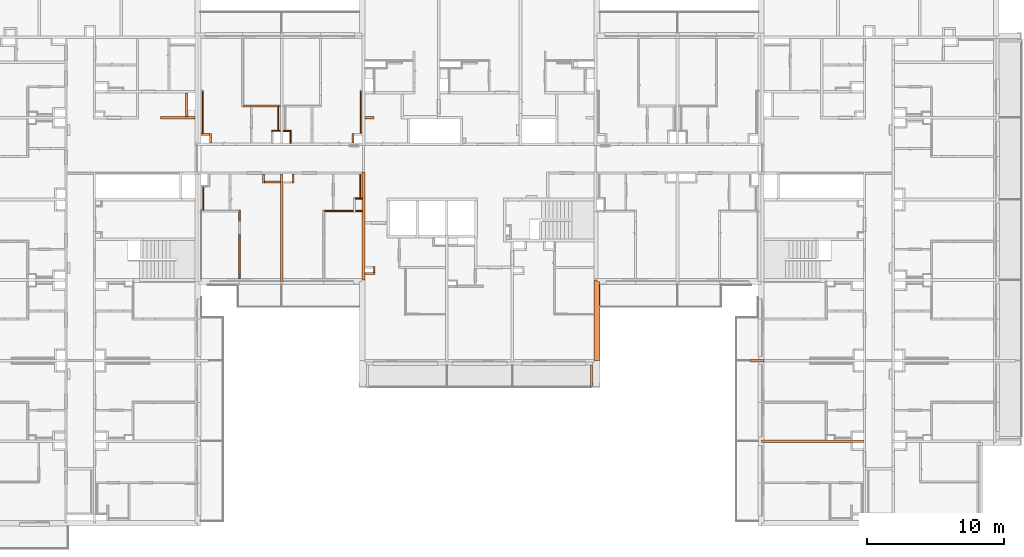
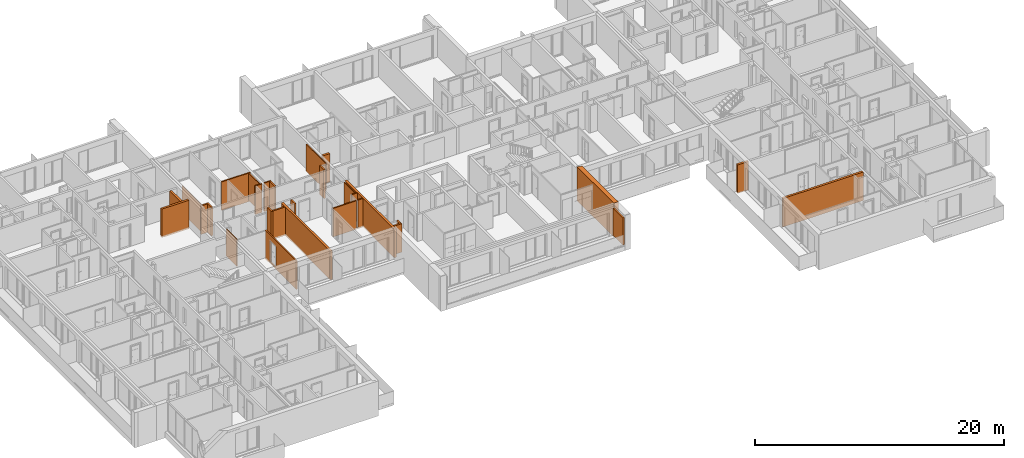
# One storey, part 56 of 67: 29 proxies, 1 opening.
"""IFC2X3 building model written with IfcOpenShell, lengths in millimetres."""

from ifc_helpers import new_model, entity, si_unit, converted_unit, derived_unit, money_unit, direction, frame, origin_with_axes, origin_2d_with_axis, place, context, subcontext, project, spatial, rectangle, extrude, faceted_brep, material, material_list, type_object, element, save


model = new_model("IFC2X3")

# Units and contexts
model_context = context("Model", 3, precision=0.01, world=origin_with_axes(), true_north=direction((0.34421633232, 0.938890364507)))
body_context = subcontext(model_context, "Body", "Model", "MODEL_VIEW")
ifc_project = project(units=[si_unit("LENGTHUNIT", "METRE", prefix="MILLI"), si_unit("AREAUNIT", "SQUARE_METRE"), si_unit("VOLUMEUNIT", "CUBIC_METRE"), converted_unit("PLANEANGLEUNIT", "DEGREE", entity("IfcPlaneAngleMeasure", 0.0174532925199), si_unit("PLANEANGLEUNIT", "RADIAN"), dimensions=[0, 0, 0, 0, 0, 0, 0]), si_unit("SOLIDANGLEUNIT", "STERADIAN"), money_unit("USD"), converted_unit("TIMEUNIT", "Year", entity("IfcTimeMeasure", 31556926.0), si_unit("TIMEUNIT", "SECOND"), dimensions=[0, 0, 1, 0, 0, 0, 0]), si_unit("MASSUNIT", "GRAM", prefix="KILO"), si_unit("THERMODYNAMICTEMPERATUREUNIT", "DEGREE_CELSIUS"), si_unit("LUMINOUSINTENSITYUNIT", "LUMEN"), si_unit("ENERGYUNIT", "JOULE", prefix="MEGA"), derived_unit("THERMALCONDUCTANCEUNIT", [(si_unit("POWERUNIT", "WATT"), 1), (si_unit("LENGTHUNIT", "METRE"), -1), (si_unit("THERMODYNAMICTEMPERATUREUNIT", "KELVIN"), -1)]), derived_unit("SPECIFICHEATCAPACITYUNIT", [(si_unit("ENERGYUNIT", "JOULE"), 1), (si_unit("MASSUNIT", "GRAM", prefix="KILO"), -1), (si_unit("THERMODYNAMICTEMPERATUREUNIT", "KELVIN"), -1)]), derived_unit("MASSDENSITYUNIT", [(si_unit("MASSUNIT", "GRAM", prefix="KILO"), 1), (si_unit("VOLUMEUNIT", "CUBIC_METRE"), -1)])], contexts=[model_context])

# Site, building, storey
site_placement = place(None, origin_with_axes())
site = spatial("IfcSite", under=ifc_project, at=site_placement, Name="USTRONIE MORSKIE", CompositionType="ELEMENT")
building_placement = place(site_placement, origin_with_axes())
building = spatial("IfcBuilding", under=site, at=building_placement, Name="Budynek", CompositionType="ELEMENT")
storey_placement = place(building_placement, frame((0.0, 0.0, 4000.0), z_axis=(0.0, 0.0, 1.0), x_axis=(1.0, 0.0, 0.0)))
storey = spatial("IfcBuildingStorey", under=building, at=storey_placement, Name="PIĘTRO 1", CompositionType="ELEMENT", Elevation=4000.0)

# Proxies
ifc_material_1 = material(Name="Bloczki silikatowe")
building_element_proxy_type_1 = type_object("IfcBuildingElementProxyType", Name="Bloczki silikatowe 120", PredefinedType="NOTDEFINED")
proxy_1_placement = place(storey_placement, frame((379317.920919, 731951.199132, -160.0), z_axis=(0.0, 0.0, 1.0), x_axis=(-1.0, 0.0, 0.0)))
element("IfcBuildingElementProxy", 1, at=proxy_1_placement, inside=storey, type_object=building_element_proxy_type_1, material=ifc_material_1, Name="SW-04", context=body_context, shape_type="Brep", body=[
    faceted_brep([(2860.01935038, 59.9999999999, 0.0), (2860.01935038, -59.9999999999, 0.0), (720.004475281, -59.9999999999, 0.0), (720.008213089, 59.9999999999, 0.0), (2860.01935038, 59.9999999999, 2800.0), (2860.01935038, -59.9999999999, 2800.0), (720.004475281, -59.9999999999, 2800.0), (720.008213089, 59.9999999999, 2800.0)], [[[0, 1, 2, 3]], [[1, 0, 4, 5]], [[1, 5, 6, 2]], [[7, 3, 2, 6]], [[4, 0, 3, 7]], [[5, 4, 7, 6]]]),
    faceted_brep([(600.008213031, 59.9999999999, 0.0), (600.004475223, -59.9999999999, 0.0), (100.0, -59.9999999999, 0.0), (100.0, 59.9999999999, 0.0), (600.008213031, 59.9999999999, 2800.0), (600.004475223, -59.9999999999, 2800.0), (100.0, -59.9999999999, 2800.0), (100.0, 59.9999999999, 2800.0)], [[[0, 1, 2, 3]], [[1, 0, 4, 5]], [[1, 5, 6, 2]], [[7, 3, 2, 6]], [[4, 0, 3, 7]], [[5, 4, 7, 6]]]),
])
proxy_2_placement = place(storey_placement, frame((373317.920919, 737751.199937, -160.0), z_axis=(0.0, 0.0, 1.0), x_axis=(-1.0, 0.0, 0.0)))
element("IfcBuildingElementProxy", 2, at=proxy_2_placement, inside=storey, type_object=building_element_proxy_type_1, material=ifc_material_1, Name="SW-04", context=body_context, shape_type="Brep", body=[
    faceted_brep([(720.0, 0.0, 2800.0), (100.0, 0.0, 2800.0), (100.0, -120.0, 2800.0), (720.0, -120.0, 2800.0), (720.0, 0.0, 0.0), (100.0, 0.0, 0.0), (100.0, -120.0, 0.0), (720.0, -120.0, 0.0)], [[[0, 1, 2, 3]], [[4, 5, 1, 0]], [[5, 6, 2, 1]], [[3, 2, 6, 7]], [[7, 4, 0, 3]], [[7, 6, 5, 4]]]),
])
proxy_3_placement = place(storey_placement, frame((373317.920919, 737751.199937, -160.0), z_axis=(0.0, 0.0, 1.0), x_axis=(1.0, 0.0, 0.0)))
element("IfcBuildingElementProxy", 3, at=proxy_3_placement, inside=storey, type_object=building_element_proxy_type_1, material=ifc_material_1, Name="SW-04", context=body_context, shape_type="Brep", body=[
    faceted_brep([(720.0, 120.0, 0.0), (720.0, 0.0, 0.0), (100.0, 0.0, 0.0), (100.0, 120.0, 0.0), (720.0, 120.0, 2800.0), (720.0, 0.0, 2800.0), (100.0, 0.0, 2800.0), (100.0, 120.0, 2800.0)], [[[0, 1, 2, 3]], [[1, 0, 4, 5]], [[1, 5, 6, 2]], [[7, 3, 2, 6]], [[4, 0, 3, 7]], [[5, 4, 7, 6]]]),
])

# Proxy, opening
proxy_4_placement = place(storey_placement, frame((370237.940269, 731951.199132, -160.0), z_axis=(0.0, 0.0, 1.0), x_axis=(0.0, -1.0, 0.0)))
proxy_4 = element("IfcBuildingElementProxy", 4, at=proxy_4_placement, inside=storey, type_object=building_element_proxy_type_1, material=ifc_material_1, Name="SW-04", context=body_context, shape_type="Brep", body=[
    faceted_brep([(4950.00009633, 60.0, 0.0), (4950.00009633, -60.0, 0.0), (-59.9999999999, -60.0, 0.0), (-59.9999999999, 60.0, 0.0), (4950.00009633, 60.0, 2800.0), (4950.00009633, -60.0, 2800.0), (-59.9999999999, -60.0, 2800.0), (-59.9999999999, 60.0, 2800.0)], [[[0, 1, 2, 3]], [[1, 0, 4, 5]], [[1, 5, 6, 2]], [[7, 3, 2, 6]], [[4, 0, 3, 7]], [[5, 4, 7, 6]]]),
])
opening_placement = place(proxy_4_placement, frame((1220.00038806, 0.0, 160.0), z_axis=(0.0, 0.0, 1.0), x_axis=(1.0, 0.0, 0.0)))
element("IfcOpeningElement", 5, at=opening_placement, cuts=proxy_4, Name="Dw.3", context=body_context, shape_type="SweptSolid", body=[
    extrude(rectangle(XDim=920.0, YDim=2070.0, at=origin_2d_with_axis()), frame((0.0, -120.0, 1035.0), z_axis=(0.0, 1.0, 0.0), x_axis=(-1.0, 0.0, 0.0)), (0.0, 0.0, 1.0), 360.0),
    extrude(rectangle(XDim=994.0, YDim=2177.0, at=origin_2d_with_axis()), frame((0.0, -60.0, 1088.5), z_axis=(0.0, 1.0, 0.0), x_axis=(-1.0, 0.0, 0.0)), (0.0, 0.0, -1.0), 120.0),
    extrude(rectangle(XDim=994.0, YDim=2177.0, at=origin_2d_with_axis()), frame((0.0, 60.0, 1088.5), z_axis=(0.0, -1.0, 0.0), x_axis=(-1.0, 0.0, 0.0)), (0.0, 0.0, -1.0), 120.0),
])

# Proxies
proxy_5_placement = place(storey_placement, frame((373917.920919, 737751.199937, -160.0), z_axis=(0.0, 0.0, 1.0), x_axis=(0.0, -1.0, 0.0)))
element("IfcBuildingElementProxy", 6, at=proxy_5_placement, inside=storey, type_object=building_element_proxy_type_1, material=ifc_material_1, Name="SW-04", context=body_context, shape_type="Brep", body=[
    faceted_brep([(820.00090117, 120.0, 0.0), (820.00090117, 0.0, 0.0), (0.0, 0.0, 0.0), (0.0, 120.0, 0.0), (820.00090117, 120.0, 2800.0), (820.00090117, 0.0, 2800.0), (0.0, 0.0, 2800.0), (0.0, 120.0, 2800.0)], [[[0, 1, 2, 3]], [[1, 0, 4, 5]], [[1, 5, 6, 2]], [[7, 3, 2, 6]], [[4, 0, 3, 7]], [[5, 4, 7, 6]]]),
])
proxy_6_placement = place(storey_placement, frame((379317.920919, 732811.215201, -160.0), z_axis=(0.0, 0.0, 1.0), x_axis=(-0.999999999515, -3.11484020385e-05, 0.0)))
element("IfcBuildingElementProxy", 7, at=proxy_6_placement, inside=storey, type_object=building_element_proxy_type_1, material=ifc_material_1, Name="SW-04", context=body_context, shape_type="Brep", body=[
    faceted_brep([(599.979556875, 1.13686837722e-10, 0.0), (599.972081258, -120.0, 0.0), (99.9962622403, -120.0, 0.0), (100.000000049, 1.13686837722e-10, 0.0), (599.979556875, 1.13686837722e-10, 2800.0), (599.972081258, -120.0, 2800.0), (99.9962622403, -120.0, 2800.0), (100.000000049, 1.13686837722e-10, 2800.0)], [[[0, 1, 2, 3]], [[1, 0, 4, 5]], [[1, 5, 6, 2]], [[7, 3, 2, 6]], [[4, 0, 3, 7]], [[5, 4, 7, 6]]]),
])
proxy_7_placement = place(storey_placement, frame((373317.920919, 739651.199937, -160.0), z_axis=(0.0, 0.0, 1.0), x_axis=(-1.0, 0.0, 0.0)))
element("IfcBuildingElementProxy", 8, at=proxy_7_placement, inside=storey, type_object=building_element_proxy_type_1, material=ifc_material_1, Name="SW-04", context=body_context, shape_type="Brep", body=[
    faceted_brep([(2790.00713284, -59.9999999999, 2800.0), (2790.00713284, 59.9999999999, 2800.0), (100.0, 59.9999999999, 2800.0), (100.0, -59.9999999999, 2800.0), (2790.00713284, -59.9999999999, 0.0), (2790.00713284, 59.9999999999, 0.0), (100.0, 59.9999999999, 0.0), (100.0, -59.9999999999, 0.0)], [[[0, 1, 2, 3]], [[1, 0, 4, 5]], [[1, 5, 6, 2]], [[7, 3, 2, 6]], [[4, 0, 3, 7]], [[5, 4, 7, 6]]]),
])
ifc_material_2 = material(Name="Tynk zewnętrzny")
ifc_material_3 = material(Name="Wełna ELEW")
ifc_material_4 = material(Name="Beton konstrukcyjny B25")
ifc_material_list_1 = material_list([ifc_material_2, ifc_material_3, ifc_material_4])
building_element_proxy_type_2 = type_object("IfcBuildingElementProxyType", Name="20+20 410", PredefinedType="NOTDEFINED")
proxy_8_placement = place(storey_placement, frame((396317.920919, 726901.199036, -500.0), z_axis=(0.0, 0.0, 1.0), x_axis=(0.0, -1.0, 0.0)))
element("IfcBuildingElementProxy", 9, at=proxy_8_placement, inside=storey, type_object=building_element_proxy_type_2, material=ifc_material_list_1, Name="SZ-01", context=body_context, shape_type="Brep", body=[
    faceted_brep([(300.0, 300.271623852, 3340.0), (300.0, 300.271623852, 3140.0), (300.0, 310.0, 3140.0), (300.000756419, 310.0, 450.0), (300.000756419, 300.271624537, 450.0), (300.000756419, 300.271624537, 140.0), (300.000756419, 310.0, 140.0), (300.0, 310.0, 0.0), (300.0, 300.0, 0.0), (300.0, 300.0, 3340.0), (1900.00067759, 301.719629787, 3340.0), (1900.00067759, 301.719629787, 3140.0), (1900.00067759, 310.0, 3140.0), (1900.00067759, 310.0, 3340.0), (5900.0, 310.0, 3340.0), (5900.0, 310.0, 0.0), (1900.00067759, 310.0, 140.0), (1900.00067759, 310.0, 450.0), (1900.00067759, 301.719629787, 450.0), (1900.00067759, 301.719629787, 140.0), (5900.0, 300.0, 0.0), (5900.0, 300.0, 3340.0)], [[[0, 1, 2, 3, 4, 5, 6, 7, 8, 9]], [[0, 10, 11, 1]], [[12, 2, 1, 11]], [[12, 13, 14, 15, 7, 6, 16, 17, 3, 2]], [[4, 3, 17, 18]], [[4, 18, 19, 5]], [[16, 6, 5, 19]], [[20, 8, 7, 15]], [[21, 9, 8, 20]], [[10, 0, 9, 21, 14, 13]], [[10, 13, 12, 11]], [[20, 15, 14, 21]], [[18, 17, 16, 19]]]),
    faceted_brep([(100.0, 300.0, 3340.0), (5900.0, 300.0, 3340.0), (5900.0, 300.0, 0.0), (100.0, 300.0, 0.0), (100.0, 100.0, 3340.0), (5900.0, 100.0, 3340.0), (5900.0, 100.0, 0.0), (100.0, 100.0, 0.0)], [[[0, 1, 2, 3]], [[0, 4, 5, 1]], [[2, 1, 5, 6]], [[7, 3, 2, 6]], [[4, 0, 3, 7]], [[4, 7, 6, 5]]]),
    faceted_brep([(0.0, 100.0, 3340.0), (0.0, -100.0, 3340.0), (5900.0, -100.0, 3340.0), (5900.0, 100.0, 3340.0), (0.0, 100.0, 0.0), (0.0, -100.0, 0.0), (5900.0, -100.0, 0.0), (5900.0, 100.0, 0.0)], [[[0, 1, 2, 3]], [[4, 5, 1, 0]], [[1, 5, 6, 2]], [[7, 3, 2, 6]], [[4, 0, 3, 7]], [[5, 4, 7, 6]]]),
])
building_element_proxy_type_3 = type_object("IfcBuildingElementProxyType", Name="Bloczki silikatowe 180", PredefinedType="NOTDEFINED")
proxy_9_placement = place(storey_placement, frame((366377.920919, 738801.199036, -160.0), z_axis=(0.0, 0.0, 1.0), x_axis=(0.0, 1.0, 0.0)))
element("IfcBuildingElementProxy", 10, at=proxy_9_placement, inside=storey, type_object=building_element_proxy_type_3, material=ifc_material_1, Name="SW-02", context=body_context, shape_type="Brep", body=[
    faceted_brep([(1819.98043997, -90.0, 2800.0), (1819.98043997, 90.0, 2800.0), (100.0, 90.0, 2800.0), (100.0, -90.0, 2800.0), (1819.98043997, -90.0, 0.0), (1819.98043997, 90.0, 0.0), (100.0, 90.0, 0.0), (100.0, -90.0, 0.0)], [[[0, 1, 2, 3]], [[1, 0, 4, 5]], [[1, 5, 6, 2]], [[7, 3, 2, 6]], [[4, 0, 3, 7]], [[5, 4, 7, 6]]]),
])
ifc_material_5 = material(Name="-Pustka powietrzna")
ifc_material_6 = material(Name="Płyta GK")
ifc_material_list_2 = material_list([ifc_material_5, ifc_material_6, ifc_material_6])
building_element_proxy_type_4 = type_object("IfcBuildingElementProxyType", Name="330-SD GK 2-warstwy 75", PredefinedType="NOTDEFINED")
proxy_10_placement = place(storey_placement, frame((367547.898487, 737501.202288, -180.0), z_axis=(0.0, 0.0, 1.0), x_axis=(1.16660687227e-07, 1.0, 0.0)))
element("IfcBuildingElementProxy", 11, at=proxy_10_placement, inside=storey, type_object=building_element_proxy_type_4, material=ifc_material_list_2, Name="Ściana-009", context=body_context, shape_type="Brep", body=[
    faceted_brep([(150.0, 0.0, 180.0), (3270.0, 0.0, 180.0), (3270.0, 0.0, 2820.0), (150.0, 0.0, 2820.0), (3269.99999417, 50.0000000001, 180.0), (149.999994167, 50.0000000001, 180.0), (3269.99999417, 50.0000000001, 2820.0), (149.999994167, 50.0000000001, 2820.0)], [[[0, 1, 2, 3]], [[4, 1, 0, 5]], [[1, 4, 6, 2]], [[6, 7, 3, 2]], [[5, 0, 3, 7]], [[4, 5, 7, 6]]]),
    faceted_brep([(150.000001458, -12.4999999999, 165.0), (3282.50000146, -12.4999999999, 165.0), (3282.50000146, -12.4999999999, 2820.0), (150.000001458, -12.4999999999, 2820.0), (3282.50000001, 0.0, 165.0), (150.0, 1.13686837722e-10, 165.0), (3282.50000001, 0.0, 2820.0), (150.0, 0.0, 2820.0)], [[[0, 1, 2, 3]], [[4, 1, 0, 5]], [[1, 4, 6, 2]], [[6, 7, 3, 2]], [[5, 0, 3, 7]], [[4, 5, 7, 6]]]),
    faceted_brep([(150.000002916, -24.9999999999, 165.0), (3295.00000292, -25.0, 165.0), (3295.00000292, -25.0, 2820.0), (150.000002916, -24.9999999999, 2820.0), (3295.00000146, -12.4999999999, 165.0), (150.000001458, -12.4999999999, 165.0), (3295.00000146, -12.4999999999, 2820.0), (150.000001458, -12.4999999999, 2820.0)], [[[0, 1, 2, 3]], [[4, 1, 0, 5]], [[1, 4, 6, 2]], [[6, 7, 3, 2]], [[5, 0, 3, 7]], [[4, 5, 7, 6]]]),
])
ifc_material_list_3 = material_list([ifc_material_6, ifc_material_6, ifc_material_5])
proxy_11_placement = place(storey_placement, frame((379072.933272, 732811.206636, -160.0), z_axis=(0.0, 0.0, 1.0), x_axis=(0.0, 1.0, 0.0)))
element("IfcBuildingElementProxy", 12, at=proxy_11_placement, inside=storey, type_object=building_element_proxy_type_4, material=ifc_material_list_3, Name="Ściana-009", context=body_context, shape_type="Brep", body=[
    faceted_brep([(119.999766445, 37.5, 145.0), (1859.99609764, 37.5, 145.0), (1859.99609764, 37.5, 2800.0), (119.999766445, 37.5, 2800.0), (1859.99609377, 50.0, 145.0), (119.99937709, 50.0, 145.0), (1859.99609377, 50.0, 2800.0), (119.99937709, 50.0, 2800.0)], [[[0, 1, 2, 3]], [[4, 1, 0, 5]], [[1, 4, 6, 2]], [[2, 6, 7, 3]], [[5, 0, 3, 7]], [[4, 5, 7, 6]]]),
    faceted_brep([(120.0001558, 25.0, 145.0), (1859.99610152, 25.0, 145.0), (1859.99610152, 25.0, 2800.0), (120.0001558, 25.0, 2800.0), (1859.99609764, 37.5, 145.0), (119.999766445, 37.5, 145.0), (1859.99609764, 37.5, 2800.0), (119.999766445, 37.5, 2800.0)], [[[0, 1, 2, 3]], [[4, 1, 0, 5]], [[1, 4, 6, 2]], [[2, 6, 7, 3]], [[5, 0, 3, 7]], [[4, 5, 7, 6]]]),
    faceted_brep([(120.00171322, -25.0, 160.0), (1859.99611702, -25.0, 160.0), (1859.99611702, -25.0, 2800.0), (120.00171322, -25.0, 2800.0), (1859.99610152, 25.0, 160.0), (120.0001558, 25.0, 160.0), (1859.99610152, 25.0, 2800.0), (120.0001558, 25.0, 2800.0)], [[[0, 1, 2, 3]], [[4, 1, 0, 5]], [[1, 4, 6, 2]], [[2, 6, 7, 3]], [[5, 0, 3, 7]], [[4, 5, 7, 6]]]),
])
proxy_12_placement = place(storey_placement, frame((379087.943039, 737501.202288, -180.0), z_axis=(0.0, 0.0, 1.0), x_axis=(0.0, 1.0, 0.0)))
element("IfcBuildingElementProxy", 13, at=proxy_12_placement, inside=storey, type_object=building_element_proxy_type_4, material=ifc_material_list_3, Name="Ściana-009", context=body_context, shape_type="Brep", body=[
    faceted_brep([(150.0, 12.5, 165.0), (3295.0, 12.5, 165.0), (3295.0, 12.5, 2820.0), (150.0, 12.5, 2820.0), (3295.0, 25.0, 165.0), (150.0, 25.0, 165.0), (3295.0, 25.0, 2820.0), (150.0, 25.0, 2820.0)], [[[0, 1, 2, 3]], [[4, 1, 0, 5]], [[1, 4, 6, 2]], [[6, 7, 3, 2]], [[5, 0, 3, 7]], [[4, 5, 7, 6]]]),
    faceted_brep([(150.0, 0.0, 165.0), (3282.5, 0.0, 165.0), (3282.5, 0.0, 2820.0), (150.0, 0.0, 2820.0), (3282.5, 12.5, 165.0), (150.0, 12.5, 165.0), (3282.5, 12.5, 2820.0), (150.0, 12.5, 2820.0)], [[[0, 1, 2, 3]], [[4, 1, 0, 5]], [[1, 4, 6, 2]], [[6, 7, 3, 2]], [[5, 0, 3, 7]], [[4, 5, 7, 6]]]),
    faceted_brep([(150.0, -50.0, 180.0), (3270.0, -50.0, 180.0), (3270.0, -50.0, 2820.0), (150.0, -50.0, 2820.0), (3270.0, 0.0, 180.0), (150.0, 0.0, 180.0), (3270.0, 0.0, 2820.0), (150.0, 0.0, 2820.0)], [[[0, 1, 2, 3]], [[4, 1, 0, 5]], [[1, 4, 6, 2]], [[6, 7, 3, 2]], [[5, 0, 3, 7]], [[4, 5, 7, 6]]]),
])
proxy_13_placement = place(storey_placement, frame((373072.933272, 739651.199937, -180.0), z_axis=(0.0, 0.0, 1.0), x_axis=(0.0, -1.0, 0.0)))
element("IfcBuildingElementProxy", 14, at=proxy_13_placement, inside=storey, type_object=building_element_proxy_type_4, material=ifc_material_list_2, Name="Ściana-009", context=body_context, shape_type="Brep", body=[
    faceted_brep([(1780.0, 25.0, 180.0), (59.9999999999, 25.0, 180.0), (59.9999999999, 25.0, 2820.0), (1780.0, 25.0, 2820.0), (59.9999999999, -25.0, 180.0), (1780.0, -25.0, 180.0), (59.9999999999, -25.0, 2820.0), (1780.0, -25.0, 2820.0)], [[[0, 1, 2, 3]], [[4, 1, 0, 5]], [[1, 4, 6, 2]], [[6, 7, 3, 2]], [[5, 0, 3, 7]], [[4, 5, 7, 6]]]),
    faceted_brep([(1780.0, -25.0, 165.0), (59.9999999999, -25.0, 165.0), (59.9999999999, -25.0, 2820.0), (1780.0, -25.0, 2820.0), (59.9999999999, -37.5, 165.0), (1780.0, -37.5, 165.0), (59.9999999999, -37.5, 2820.0), (1780.0, -37.5, 2820.0)], [[[0, 1, 2, 3]], [[4, 1, 0, 5]], [[1, 4, 6, 2]], [[6, 7, 3, 2]], [[5, 0, 3, 7]], [[4, 5, 7, 6]]]),
    faceted_brep([(1780.0, -37.5, 165.0), (59.9999999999, -37.5, 165.0), (59.9999999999, -37.5, 2820.0), (1780.0, -37.5, 2820.0), (59.9999999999, -50.0, 165.0), (1780.0, -50.0, 165.0), (59.9999999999, -50.0, 2820.0), (1780.0, -50.0, 2820.0)], [[[0, 1, 2, 3]], [[4, 1, 0, 5]], [[1, 4, 6, 2]], [[6, 7, 3, 2]], [[5, 0, 3, 7]], [[4, 5, 7, 6]]]),
])
proxy_14_placement = place(storey_placement, frame((367562.908566, 733851.192199, -160.0), z_axis=(0.0, 0.0, 1.0), x_axis=(0.0, -1.0, 0.0)))
element("IfcBuildingElementProxy", 15, at=proxy_14_placement, inside=storey, type_object=building_element_proxy_type_4, material=ifc_material_list_3, Name="Ściana-009", context=body_context, shape_type="Brep", body=[
    faceted_brep([(1839.99306693, 50.0, 145.0), (119.99937709, 50.0, 145.0), (119.99937709, 50.0, 2800.0), (1839.99306693, 50.0, 2800.0), (119.999766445, 37.5, 145.0), (1839.99306693, 37.5, 145.0), (119.999766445, 37.5, 2800.0), (1839.99306693, 37.5, 2800.0)], [[[0, 1, 2, 3]], [[4, 1, 0, 5]], [[1, 4, 6, 2]], [[7, 3, 2, 6]], [[5, 0, 3, 7]], [[4, 5, 7, 6]]]),
    faceted_brep([(1839.99306693, 37.5, 145.0), (119.999766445, 37.5, 145.0), (119.999766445, 37.5, 2800.0), (1839.99306693, 37.5, 2800.0), (120.0001558, 25.0, 145.0), (1839.99306693, 25.0, 145.0), (120.0001558, 25.0, 2800.0), (1839.99306693, 25.0, 2800.0)], [[[0, 1, 2, 3]], [[4, 1, 0, 5]], [[1, 4, 6, 2]], [[7, 3, 2, 6]], [[5, 0, 3, 7]], [[4, 5, 7, 6]]]),
    faceted_brep([(1839.99306693, 25.0, 160.0), (120.0001558, 25.0, 160.0), (120.0001558, 25.0, 2800.0), (1839.99306693, 25.0, 2800.0), (120.00171322, -25.0, 160.0), (1839.99306693, -25.0, 160.0), (120.00171322, -25.0, 2800.0), (1839.99306693, -25.0, 2800.0)], [[[0, 1, 2, 3]], [[4, 1, 0, 5]], [[1, 4, 6, 2]], [[7, 3, 2, 6]], [[5, 0, 3, 7]], [[4, 5, 7, 6]]]),
])
building_element_proxy_type_5 = type_object("IfcBuildingElementProxyType", Name="Bloczki silikatowe 150", PredefinedType="NOTDEFINED")
proxy_15_placement = place(storey_placement, frame((372047.920919, 734151.201884, -160.0), z_axis=(0.0, 0.0, 1.0), x_axis=(1.0, 0.0, 0.0)))
element("IfcBuildingElementProxy", 16, at=proxy_15_placement, inside=storey, type_object=building_element_proxy_type_5, material=ifc_material_1, Name="SW-03", context=body_context, shape_type="Brep", body=[
    faceted_brep([(0.0, -150.0, 2800.0), (1170.0, -150.0, 2800.0), (1170.0, 0.0, 2800.0), (0.0, 0.0, 2800.0), (0.0, -150.0, 0.0), (1170.0, -150.0, 0.0), (1170.0, 0.0, 0.0), (0.0, 0.0, 0.0)], [[[0, 1, 2, 3]], [[4, 5, 1, 0]], [[5, 6, 2, 1]], [[3, 2, 6, 7]], [[3, 7, 4, 0]], [[7, 6, 5, 4]]]),
])
proxy_16_placement = place(storey_placement, frame((380017.930677, 727451.199036, -160.0), z_axis=(0.0, 0.0, 1.0), x_axis=(0.0, 1.0, 0.0)))
element("IfcBuildingElementProxy", 17, at=proxy_16_placement, inside=storey, type_object=building_element_proxy_type_5, material=ifc_material_1, Name="SW-03", context=body_context, shape_type="Brep", body=[
    faceted_brep([(450.0, -150.0, 2800.0), (450.0, 0.0, 2800.0), (0.0, 0.0, 2800.0), (0.0, -150.0, 2800.0), (450.0, -150.0, 0.0), (450.0, 0.0, 0.0), (0.0, 0.0, 0.0), (0.0, -150.0, 0.0)], [[[0, 1, 2, 3]], [[1, 0, 4, 5]], [[1, 5, 6, 2]], [[7, 3, 2, 6]], [[4, 0, 3, 7]], [[5, 4, 7, 6]]]),
])
proxy_17_placement = place(storey_placement, frame((372047.920919, 734751.200744, -160.0), z_axis=(0.0, 0.0, 1.0), x_axis=(0.0, -1.0, 0.0)))
element("IfcBuildingElementProxy", 18, at=proxy_17_placement, inside=storey, type_object=building_element_proxy_type_5, material=ifc_material_1, Name="SW-03", context=body_context, shape_type="Brep", body=[
    faceted_brep([(749.998859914, 0.0, 0.0), (749.998859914, -150.0, 0.0), (80.0002231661, -150.0, 0.0), (80.0001766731, 0.0, 0.0), (749.998859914, 0.0, 2800.0), (749.998859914, -150.0, 2800.0), (80.0002231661, -150.0, 2800.0), (80.0001766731, 0.0, 2800.0)], [[[0, 1, 2, 3]], [[1, 0, 4, 5]], [[1, 5, 6, 2]], [[7, 3, 2, 6]], [[4, 0, 3, 7]], [[5, 4, 7, 6]]]),
])
proxy_18_placement = place(storey_placement, frame((379317.920919, 727451.199036, -160.0), z_axis=(0.0, 0.0, 1.0), x_axis=(1.0, 0.0, 0.0)))
element("IfcBuildingElementProxy", 19, at=proxy_18_placement, inside=storey, type_object=building_element_proxy_type_5, material=ifc_material_1, Name="SW-03", context=body_context, shape_type="Brep", body=[
    faceted_brep([(850.009757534, -150.0, 2800.0), (850.009757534, 0.0, 2800.0), (100.0, 0.0, 2800.0), (100.0, -150.0, 2800.0), (850.009757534, -150.0, 0.0), (850.009757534, 0.0, 0.0), (100.0, 0.0, 0.0), (100.0, -150.0, 0.0)], [[[0, 1, 2, 3]], [[1, 0, 4, 5]], [[1, 5, 6, 2]], [[7, 3, 2, 6]], [[4, 0, 3, 7]], [[5, 4, 7, 6]]]),
])
proxy_19_placement = place(storey_placement, frame((378617.937739, 736851.19885, -160.0), z_axis=(0.0, 0.0, 1.0), x_axis=(0.0, 1.0, 0.0)))
element("IfcBuildingElementProxy", 20, at=proxy_19_placement, inside=storey, type_object=building_element_proxy_type_5, material=ifc_material_1, Name="SW-03", context=body_context, shape_type="Brep", body=[
    faceted_brep([(800.003437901, 0.0, 2800.0), (800.003437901, 150.0, 2800.0), (80.0001859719, 150.0, 2800.0), (80.0001859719, 0.0, 2800.0), (800.003437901, 0.0, 0.0), (800.003437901, 150.0, 0.0), (80.0001859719, 150.0, 0.0), (80.0001859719, 0.0, 0.0)], [[[0, 1, 2, 3]], [[1, 0, 4, 5]], [[1, 5, 6, 2]], [[7, 3, 2, 6]], [[4, 0, 3, 7]], [[5, 4, 7, 6]]]),
])
proxy_20_placement = place(storey_placement, frame((368017.924131, 736851.199036, -160.0), z_axis=(0.0, 0.0, 1.0), x_axis=(-3.11484011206e-05, 0.999999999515, 0.0)))
element("IfcBuildingElementProxy", 21, at=proxy_20_placement, inside=storey, type_object=building_element_proxy_type_5, material=ifc_material_1, Name="SW-03", context=body_context, shape_type="Brep", body=[
    faceted_brep([(800.003252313, 0.0, 0.0), (799.998580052, -150.0, 0.0), (79.9953277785, -150.0, 0.0), (80.0000000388, 0.0, 0.0), (800.003252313, 0.0, 2800.0), (799.998580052, -150.0, 2800.0), (79.9953277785, -150.0, 2800.0), (80.0000000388, 0.0, 2800.0)], [[[0, 1, 2, 3]], [[1, 0, 4, 5]], [[1, 5, 6, 2]], [[7, 3, 2, 6]], [[4, 0, 3, 7]], [[5, 4, 7, 6]]]),
])
proxy_21_placement = place(storey_placement, frame((368017.903884, 737501.202288, -160.0), z_axis=(0.0, 0.0, 1.0), x_axis=(-1.0, 0.0, 0.0)))
element("IfcBuildingElementProxy", 22, at=proxy_21_placement, inside=storey, type_object=building_element_proxy_type_5, material=ifc_material_1, Name="SW-03", context=body_context, shape_type="Brep", body=[
    faceted_brep([(599.982965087, 0.0, 0.0), (599.982965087, -150.0, 0.0), (0.00467226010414, -150.0, 0.0), (0.0, 0.0, 0.0), (599.982965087, 0.0, 2800.0), (599.982965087, -150.0, 2800.0), (0.00467226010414, -150.0, 2800.0), (0.0, 0.0, 2800.0)], [[[0, 1, 2, 3]], [[1, 0, 4, 5]], [[1, 5, 6, 2]], [[7, 3, 2, 6]], [[4, 0, 3, 7]], [[5, 4, 7, 6]]]),
])
proxy_22_placement = place(storey_placement, frame((374067.920919, 734751.201178, -160.0), z_axis=(0.0, 0.0, 1.0), x_axis=(0.0, -1.0, 0.0)))
element("IfcBuildingElementProxy", 23, at=proxy_22_placement, inside=storey, type_object=building_element_proxy_type_5, material=ifc_material_1, Name="SW-03", context=body_context, shape_type="Brep", body=[
    faceted_brep([(749.999293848, 0.0, 2800.0), (749.999293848, 150.0, 2800.0), (79.9999380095, 150.0, 2800.0), (79.9999845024, 0.0, 2800.0), (749.999293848, 0.0, 0.0), (749.999293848, 150.0, 0.0), (79.9999380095, 150.0, 0.0), (79.9999845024, 0.0, 0.0)], [[[0, 1, 2, 3]], [[1, 0, 4, 5]], [[1, 5, 6, 2]], [[7, 3, 2, 6]], [[4, 0, 3, 7]], [[5, 4, 7, 6]]]),
])
building_element_proxy_type_6 = type_object("IfcBuildingElementProxyType", Name="Beton konstrukcyjny B25 200", PredefinedType="NOTDEFINED")
proxy_23_placement = place(storey_placement, frame((407667.88964, 721001.199036, -160.0), z_axis=(0.0, 0.0, 1.0), x_axis=(1.0, 0.0, 0.0)))
element("IfcBuildingElementProxy", 24, at=proxy_23_placement, inside=storey, type_object=building_element_proxy_type_6, material=ifc_material_4, Name="SW-01", context=body_context, shape_type="Brep", body=[
    faceted_brep([(0.0, 100.0, 0.0), (999.994205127, 100.0, 0.0), (999.994216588, -100.0, 0.0), (0.0, -100.0, 0.0), (0.0, 100.0, 2800.0), (999.994205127, 100.0, 2800.0), (999.994216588, -100.0, 2800.0), (0.0, -100.0, 2800.0)], [[[0, 1, 2, 3]], [[4, 5, 1, 0]], [[6, 2, 1, 5]], [[3, 2, 6, 7]], [[7, 4, 0, 3]], [[7, 6, 5, 4]]]),
])
proxy_24_placement = place(storey_placement, frame((408567.884527, 715101.199004, -160.0), z_axis=(0.0, 0.0, 1.0), x_axis=(1.0, 4.37551796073e-09, 0.0)))
element("IfcBuildingElementProxy", 25, at=proxy_24_placement, inside=storey, type_object=building_element_proxy_type_6, material=ifc_material_4, Name="SW-01", context=body_context, shape_type="Brep", body=[
    faceted_brep([(-100.000343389, 100.000000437, 0.0), (7370.03639224, 99.9999677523, 0.0), (7370.03639137, -100.000032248, 0.0), (-100.000332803, -99.9999995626, 0.0), (-100.000343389, 100.000000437, 2800.0), (7370.03639224, 99.9999677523, 2800.0), (7370.03639137, -100.000032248, 2800.0), (-100.000332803, -99.9999995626, 2800.0)], [[[0, 1, 2, 3]], [[4, 5, 1, 0]], [[6, 2, 1, 5]], [[3, 2, 6, 7]], [[7, 4, 0, 3]], [[7, 6, 5, 4]]]),
])
proxy_25_placement = place(storey_placement, frame((373317.920919, 726901.199036, -160.0), z_axis=(0.0, 0.0, 1.0), x_axis=(0.0, 1.0, 0.0)))
element("IfcBuildingElementProxy", 26, at=proxy_25_placement, inside=storey, type_object=building_element_proxy_type_6, material=ifc_material_4, Name="SW-01", context=body_context, shape_type="Brep", body=[
    faceted_brep([(-100.0, 100.0, 0.0), (7770.00189405, 100.0, 0.0), (7770.00195604, -100.0, 0.0), (-100.0, -100.0, 0.0), (-100.0, 100.0, 2800.0), (7770.00189405, 100.0, 2800.0), (7770.00195604, -100.0, 2800.0), (-100.0, -100.0, 2800.0)], [[[0, 1, 2, 3]], [[4, 5, 1, 0]], [[6, 2, 1, 5]], [[3, 2, 6, 7]], [[7, 4, 0, 3]], [[7, 6, 5, 4]]]),
])
proxy_26_placement = place(storey_placement, frame((364447.920874, 738801.199036, -160.0), z_axis=(0.0, 0.0, 1.0), x_axis=(1.0, 0.0, 0.0)))
element("IfcBuildingElementProxy", 27, at=proxy_26_placement, inside=storey, type_object=building_element_proxy_type_6, material=ifc_material_4, Name="SW-01", context=body_context, shape_type="Brep", body=[
    faceted_brep([(2520.00004519, 100.0, 0.0), (2520.00004519, -100.0, 0.0), (0.0, -100.0, 0.0), (0.0, 100.0, 0.0), (2520.00004519, 100.0, 2800.0), (2520.00004519, -100.0, 2800.0), (0.0, -100.0, 2800.0), (0.0, 100.0, 2800.0)], [[[0, 1, 2, 3]], [[1, 0, 4, 5]], [[1, 5, 6, 2]], [[7, 3, 2, 6]], [[4, 0, 3, 7]], [[5, 4, 7, 6]]]),
])
proxy_27_placement = place(storey_placement, frame((379317.920919, 726901.199036, -160.0), z_axis=(0.0, 0.0, 1.0), x_axis=(0.0, 1.0, 0.0)))
element("IfcBuildingElementProxy", 28, at=proxy_27_placement, inside=storey, type_object=building_element_proxy_type_6, material=ifc_material_4, Name="SW-01", context=body_context, shape_type="Brep", body=[
    faceted_brep([(7930.00375377, 100.0, 2800.0), (0.0, 100.0, 2800.0), (0.0, -100.0, 2800.0), (7930.00381576, -100.0, 2800.0), (7930.00375377, 100.0, 0.0), (0.0, 100.0, 0.0), (0.0, -100.0, 0.0), (7930.00381576, -100.0, 0.0)], [[[0, 1, 2, 3]], [[4, 5, 1, 0]], [[1, 5, 6, 2]], [[3, 2, 6, 7]], [[7, 4, 0, 3]], [[7, 6, 5, 4]]]),
])
proxy_28_placement = place(storey_placement, frame((380067.920919, 738801.199036, -160.0), z_axis=(0.0, 0.0, 1.0), x_axis=(-1.0, 0.0, 0.0)))
element("IfcBuildingElementProxy", 29, at=proxy_28_placement, inside=storey, type_object=building_element_proxy_type_6, material=ifc_material_4, Name="SW-01", context=body_context, shape_type="Brep", body=[
    faceted_brep([(650.0, -100.0, 2800.0), (650.0, 100.0, 2800.0), (0.0, 100.0, 2800.0), (0.0, -100.0, 2800.0), (650.0, -100.0, 0.0), (650.0, 100.0, 0.0), (0.0, 100.0, 0.0), (0.0, -100.0, 0.0)], [[[0, 1, 2, 3]], [[1, 0, 4, 5]], [[1, 5, 6, 2]], [[7, 3, 2, 6]], [[4, 0, 3, 7]], [[5, 4, 7, 6]]]),
])
ifc_material_7 = material(Name="Laminat")
building_element_proxy_type_7 = type_object("IfcBuildingElementProxyType", Name="Laminat 150", PredefinedType="NOTDEFINED")
proxy_29_placement = place(storey_placement, frame((396032.920919, 720691.199036, -30.000001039), z_axis=(0.0, 0.0, 1.0), x_axis=(0.0, -1.0, 0.0)))
element("IfcBuildingElementProxy", 30, at=proxy_29_placement, inside=storey, type_object=building_element_proxy_type_7, material=ifc_material_7, context=body_context, shape_type="Brep", body=[
    faceted_brep([(-0.000681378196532, 75.0, 2659.99999287), (0.0, -75.0, 2659.99999287), (1590.0, -75.0, 2659.99999287), (1590.0, 75.0, 2659.99999287), (0.0, 75.0, 0.0), (0.0, -75.0, 0.0), (1590.0, -75.0, 0.0), (1590.0, 75.0, 0.0)], [[[0, 1, 2, 3]], [[4, 5, 1, 0]], [[1, 5, 6, 2]], [[3, 2, 6, 7]], [[3, 7, 4, 0]], [[7, 6, 5, 4]]]),
])

save(model, "model.ifc")
